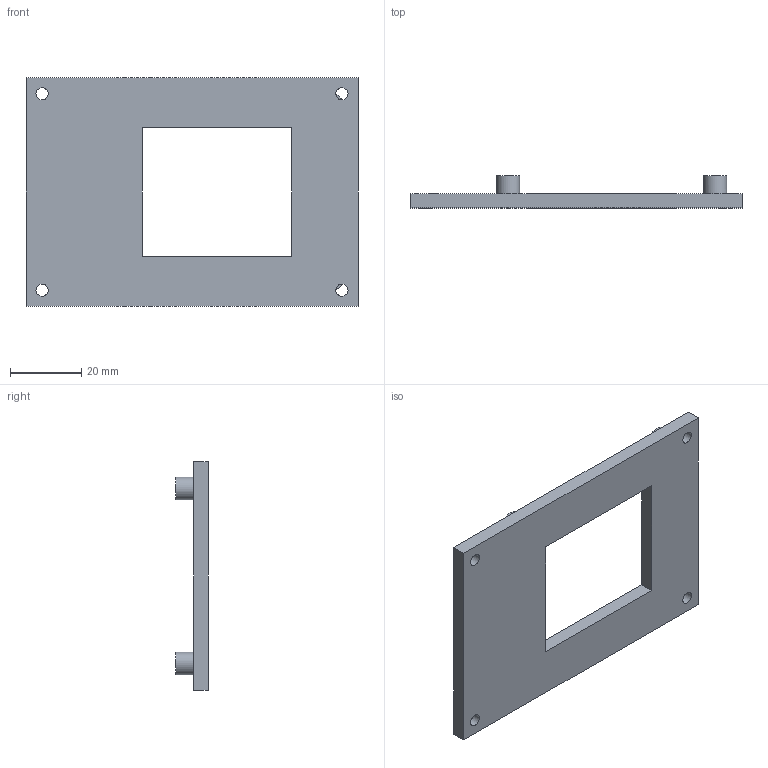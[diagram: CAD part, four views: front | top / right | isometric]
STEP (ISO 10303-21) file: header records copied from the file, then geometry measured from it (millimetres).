
FILE_DESCRIPTION(('Open CASCADE Model'),'2;1');
FILE_NAME('Open CASCADE Shape Model','2026-10-05T16:07:19',('Author'),( 'Open CASCADE'),'Open CASCADE STEP processor 7.9','Open CASCADE 7.9' ,'Unknown');
FILE_SCHEMA(('AUTOMOTIVE_DESIGN { 1 0 10303 214 1 1 1 1 }'));
Length unit declared in the file: millimetre
Products named in the file (1): Open CASCADE STEP translator 7.9 2
Bounding box: 93 x 9 x 64 mm (x, y, z)
Volume: 18066.7 mm3; surface area: 11498 mm2
Topology: 1 solids, 1 shells, 36 faces, 82 edges, 52 vertices
Faces by surface type: plane 20, cylinder 12, cone 4
Full cylindrical faces by diameter (mm): 2.2 x4, 3.4 x4, 6.4 x4
Entity records: 2272 total; most frequent: CARTESIAN_POINT 573, DIRECTION 322, ORIENTED_EDGE 164, PCURVE 164, DEFINITIONAL_REPRESENTATION 164, LINE 148, VECTOR 148, EDGE_CURVE 82
